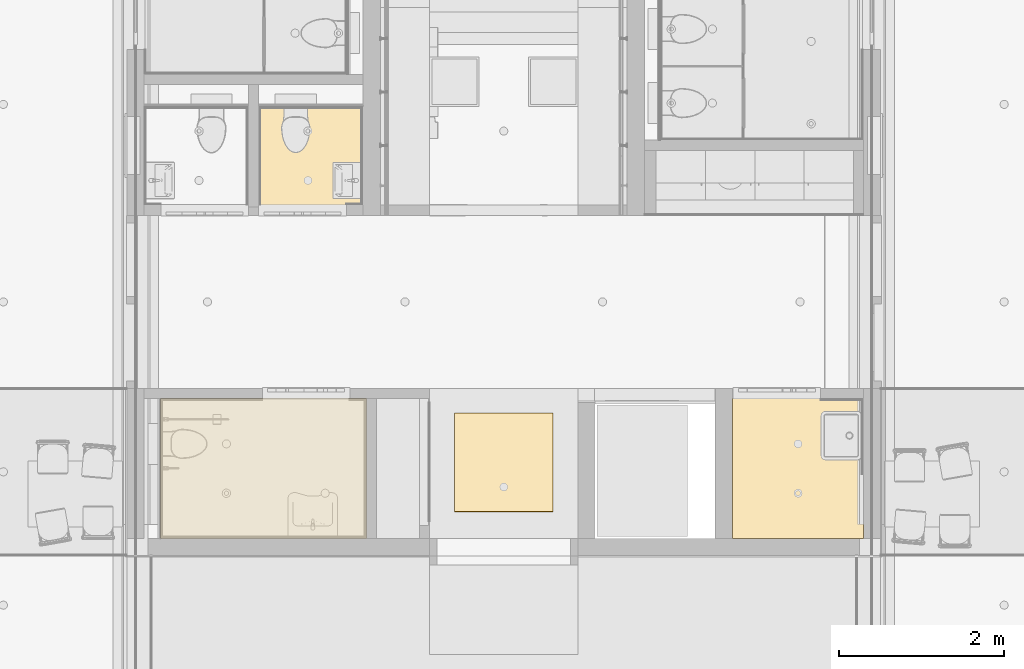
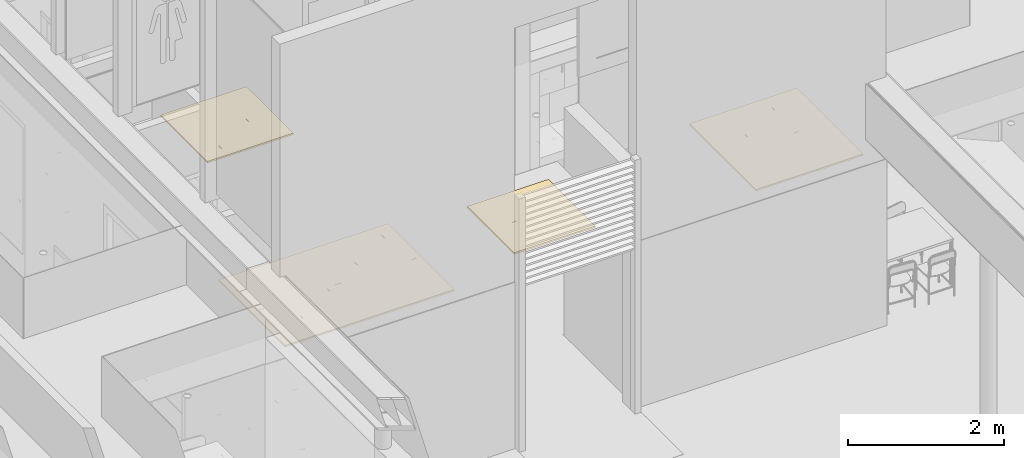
# One storey, part 152 of 347: 4 coverings.
"""IFC2X3 building model written with IfcOpenShell, lengths in millimetres."""

from ifc_helpers import new_model, entity, si_unit, converted_unit, derived_unit, money_unit, direction, frame, origin_with_axes, place, context, subcontext, project, spatial, faceted_brep, source, transform, mapped, type_object, type_shapes, element, save


model = new_model("IFC2X3")

# Units and contexts
model_context = context("Model", 3, precision=0.01, world=origin_with_axes(), true_north=direction((0.0, 1.0)))
plan_context = context("Plan", 3, precision=0.01, world=origin_with_axes(), true_north=direction((0.0, 1.0)))
body_context = subcontext(model_context, "Body", "Model", "MODEL_VIEW")
ifc_project = project(units=[si_unit("LENGTHUNIT", "METRE", prefix="MILLI"), si_unit("AREAUNIT", "SQUARE_METRE"), si_unit("VOLUMEUNIT", "CUBIC_METRE"), converted_unit("PLANEANGLEUNIT", "DEGREE", entity("IfcPlaneAngleMeasure", 0.0174532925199), si_unit("PLANEANGLEUNIT", "RADIAN"), dimensions=[0, 0, 0, 0, 0, 0, 0]), money_unit("EUR"), converted_unit("TIMEUNIT", "Year", entity("IfcTimeMeasure", 31556926.0), si_unit("TIMEUNIT", "SECOND"), dimensions=[0, 0, 1, 0, 0, 0, 0]), si_unit("MASSUNIT", "GRAM", prefix="KILO"), si_unit("THERMODYNAMICTEMPERATUREUNIT", "DEGREE_CELSIUS"), si_unit("LUMINOUSINTENSITYUNIT", "LUMEN"), si_unit("ENERGYUNIT", "JOULE", prefix="MEGA"), derived_unit("THERMALCONDUCTANCEUNIT", [(si_unit("POWERUNIT", "WATT"), 1), (si_unit("LENGTHUNIT", "METRE"), -1), (si_unit("THERMODYNAMICTEMPERATUREUNIT", "KELVIN"), -1)]), derived_unit("SPECIFICHEATCAPACITYUNIT", [(si_unit("ENERGYUNIT", "JOULE"), 1), (si_unit("MASSUNIT", "GRAM", prefix="KILO"), -1), (si_unit("THERMODYNAMICTEMPERATUREUNIT", "KELVIN"), -1)]), derived_unit("MASSDENSITYUNIT", [(si_unit("MASSUNIT", "GRAM", prefix="KILO"), 1), (si_unit("VOLUMEUNIT", "CUBIC_METRE"), -1)])], contexts=[model_context, plan_context])

# Site, building, storey
site_placement = place(None, origin_with_axes())
site = spatial("IfcSite", under=ifc_project, at=site_placement, Name="Site", CompositionType="ELEMENT")
building_placement = place(site_placement, origin_with_axes())
building = spatial("IfcBuilding", under=site, at=building_placement, Name="Naam gebouw", CompositionType="ELEMENT")
storey_placement = place(building_placement, origin_with_axes())
storey = spatial("IfcBuildingStorey", under=building, at=storey_placement, Name="begane grond", CompositionType="ELEMENT", Elevation=0.0)

# Coverings
covering_type = type_object("IfcCoveringType", Name="Ceiling Editor INT_v2.01", PredefinedType="CEILING")
shared_shape_1 = source(origin_with_axes(), body_context, "Body", "Brep", [
    faceted_brep([(0.0, 0.0, 20.0), (499.900017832, 0.0, 20.0), (499.900017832, 849.9, 20.0), (0.0, 849.9, 20.0), (0.0, 425.0, 20.0), (0.0, 0.0, 0.0), (499.900017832, 0.0, 0.0), (499.900017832, 849.9, 0.0), (0.0, 849.9, 0.0), (0.0, 425.0, 0.0)], [[[0, 1, 2, 3, 4]], [[1, 0, 5, 6]], [[1, 6, 7, 2]], [[8, 3, 2, 7]], [[3, 8, 9, 4]], [[0, 4, 9, 5]], [[9, 8, 7, 6, 5]]]),
    faceted_brep([(499.900017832, 1700.0, 0.0), (499.900017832, 1700.0, 20.0), (499.900017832, 850.1, 20.0), (499.900017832, 850.1, 0.0), (0.0, 1700.0, 0.0), (0.0, 1700.0, 20.0), (0.0, 1275.0, 20.0), (0.0, 850.1, 20.0), (0.0, 850.1, 0.0), (0.0, 1275.0, 0.0)], [[[0, 1, 2, 3]], [[1, 0, 4, 5]], [[6, 7, 2, 1, 5]], [[7, 8, 3, 2]], [[4, 0, 3, 8, 9]], [[6, 5, 4, 9]], [[7, 6, 9, 8]]]),
    faceted_brep([(625.0, 0.0, 20.0), (1099.90001783, 0.0, 20.0), (1099.90001783, 849.9, 20.0), (500.100017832, 849.9, 20.0), (500.100017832, 0.0, 20.0), (625.0, 0.0, 0.0), (1099.90001783, 0.0, 0.0), (1099.90001783, 849.9, 0.0), (500.100017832, 849.9, 0.0), (500.100017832, 0.0, 0.0)], [[[0, 1, 2, 3, 4]], [[1, 0, 5, 6]], [[1, 6, 7, 2]], [[2, 7, 8, 3]], [[9, 4, 3, 8]], [[0, 4, 9, 5]], [[5, 9, 8, 7, 6]]]),
    faceted_brep([(1099.90001783, 1700.0, 0.0), (1099.90001783, 1700.0, 20.0), (1099.90001783, 850.1, 20.0), (1099.90001783, 850.1, 0.0), (625.0, 1700.0, 0.0), (625.0, 1700.0, 20.0), (500.100017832, 1700.0, 20.0), (500.100017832, 850.1, 20.0), (500.100017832, 850.1, 0.0), (500.100017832, 1700.0, 0.0)], [[[0, 1, 2, 3]], [[1, 0, 4, 5]], [[5, 6, 7, 2, 1]], [[7, 8, 3, 2]], [[4, 0, 3, 8, 9]], [[6, 5, 4, 9]], [[6, 9, 8, 7]]]),
    faceted_brep([(1250.0, 0.0, 20.0), (1699.90001783, 0.0, 20.0), (1699.90001783, 849.9, 20.0), (1100.10001783, 849.9, 20.0), (1100.10001783, 0.0, 20.0), (1250.0, 0.0, 0.0), (1699.90001783, 0.0, 0.0), (1699.90001783, 849.9, 0.0), (1100.10001783, 849.9, 0.0), (1100.10001783, 0.0, 0.0)], [[[0, 1, 2, 3, 4]], [[1, 0, 5, 6]], [[1, 6, 7, 2]], [[2, 7, 8, 3]], [[9, 4, 3, 8]], [[0, 4, 9, 5]], [[5, 9, 8, 7, 6]]]),
    faceted_brep([(1699.90001783, 1700.0, 0.0), (1699.90001783, 1700.0, 20.0), (1699.90001783, 850.1, 20.0), (1699.90001783, 850.1, 0.0), (1250.0, 1700.0, 0.0), (1250.0, 1700.0, 20.0), (1100.10001783, 1700.0, 20.0), (1100.10001783, 850.1, 20.0), (1100.10001783, 850.1, 0.0), (1100.10001783, 1700.0, 0.0)], [[[0, 1, 2, 3]], [[1, 0, 4, 5]], [[5, 6, 7, 2, 1]], [[7, 8, 3, 2]], [[4, 0, 3, 8, 9]], [[6, 5, 4, 9]], [[6, 9, 8, 7]]]),
    faceted_brep([(1875.0, 0.0, 20.0), (2299.90001783, 0.0, 20.0), (2299.90001783, 849.9, 20.0), (1700.10001783, 849.9, 20.0), (1700.10001783, 0.0, 20.0), (1875.0, 0.0, 0.0), (2299.90001783, 0.0, 0.0), (2299.90001783, 849.9, 0.0), (1700.10001783, 849.9, 0.0), (1700.10001783, 0.0, 0.0)], [[[0, 1, 2, 3, 4]], [[1, 0, 5, 6]], [[1, 6, 7, 2]], [[2, 7, 8, 3]], [[9, 4, 3, 8]], [[0, 4, 9, 5]], [[5, 9, 8, 7, 6]]]),
    faceted_brep([(2299.90001783, 1700.0, 0.0), (2299.90001783, 1700.0, 20.0), (2299.90001783, 850.1, 20.0), (2299.90001783, 850.1, 0.0), (1875.0, 1700.0, 0.0), (1875.0, 1700.0, 20.0), (1700.10001783, 1700.0, 20.0), (1700.10001783, 850.1, 20.0), (1700.10001783, 850.1, 0.0), (1700.10001783, 1700.0, 0.0)], [[[0, 1, 2, 3]], [[1, 0, 4, 5]], [[5, 6, 7, 2, 1]], [[7, 8, 3, 2]], [[4, 0, 3, 8, 9]], [[6, 5, 4, 9]], [[6, 9, 8, 7]]]),
    faceted_brep([(2500.0, 425.0, 20.0), (2500.0, 849.9, 20.0), (2300.10001783, 849.9, 20.0), (2300.10001783, 0.0, 20.0), (2500.0, 0.0, 20.0), (2500.0, 425.0, 0.0), (2500.0, 849.9, 0.0), (2300.10001783, 849.9, 0.0), (2300.10001783, 0.0, 0.0), (2500.0, 0.0, 0.0)], [[[0, 1, 2, 3, 4]], [[1, 0, 5, 6]], [[1, 6, 7, 2]], [[8, 3, 2, 7]], [[4, 3, 8, 9]], [[0, 4, 9, 5]], [[9, 8, 7, 6, 5]]]),
    faceted_brep([(2500.0, 1275.0, 20.0), (2500.0, 1700.0, 20.0), (2300.10001783, 1700.0, 20.0), (2300.10001783, 850.1, 20.0), (2500.0, 850.1, 20.0), (2500.0, 1275.0, 0.0), (2500.0, 1700.0, 0.0), (2300.10001783, 1700.0, 0.0), (2300.10001783, 850.1, 0.0), (2500.0, 850.1, 0.0)], [[[0, 1, 2, 3, 4]], [[1, 0, 5, 6]], [[2, 1, 6, 7]], [[2, 7, 8, 3]], [[9, 4, 3, 8]], [[0, 4, 9, 5]], [[5, 9, 8, 7, 6]]]),
    faceted_brep([(2500.0, 0.0, 0.0), (2500.0, 0.0, -5.0), (2500.0, 837.5, -5.0), (2500.0, 850.0, -5.0), (2500.0, 850.0, 0.0), (2500.0, 837.5, 0.0), (1112.50001783, 0.0, -5.0), (1687.50001783, 0.0, -5.0), (1712.50001783, 0.0, -5.0), (2287.50001783, 0.0, -5.0), (2312.50001783, 0.0, -5.0), (2312.50001783, 0.0, 0.0), (2287.50001783, 0.0, 0.0), (1712.50001783, 0.0, 0.0), (1687.50001783, 0.0, 0.0), (1112.50001783, 0.0, 0.0), (1087.50001783, 0.0, 0.0), (512.500017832, 0.0, 0.0), (487.500017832, 0.0, 0.0), (0.0, 0.0, 0.0), (0.0, 0.0, -5.0), (487.500017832, 0.0, -5.0), (512.500017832, 0.0, -5.0), (1087.50001783, 0.0, -5.0), (0.0, 837.5, -5.0), (0.0, 850.0, -5.0), (0.0, 862.5, -5.0), (0.0, 1700.0, -5.0), (487.500017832, 1700.0, -5.0), (512.500017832, 1700.0, -5.0), (1087.50001783, 1700.0, -5.0), (1112.50001783, 1700.0, -5.0), (1687.50001783, 1700.0, -5.0), (1712.50001783, 1700.0, -5.0), (2287.50001783, 1700.0, -5.0), (2312.50001783, 1700.0, -5.0), (2500.0, 1700.0, -5.0), (2500.0, 862.5, -5.0), (25.0, 837.5, -5.0), (25.0, 25.0, -5.0), (487.500017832, 25.0, -5.0), (487.500017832, 837.5, -5.0), (487.500017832, 1675.0, -5.0), (25.0, 1675.0, -5.0), (25.0, 862.5, -5.0), (487.500017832, 862.5, -5.0), (1087.50001783, 1675.0, -5.0), (512.500017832, 1675.0, -5.0), (512.500017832, 862.5, -5.0), (1087.50001783, 862.5, -5.0), (1687.50001783, 1675.0, -5.0), (1112.50001783, 1675.0, -5.0), (1112.50001783, 862.5, -5.0), (1687.50001783, 862.5, -5.0), (2287.50001783, 1675.0, -5.0), (1712.50001783, 1675.0, -5.0), (1712.50001783, 862.5, -5.0), (2287.50001783, 862.5, -5.0), (2475.0, 1675.0, -5.0), (2312.50001783, 1675.0, -5.0), (2312.50001783, 862.5, -5.0), (2475.0, 862.5, -5.0), (2475.0, 25.0, -5.0), (2475.0, 837.5, -5.0), (2312.50001783, 837.5, -5.0), (2312.50001783, 25.0, -5.0), (2287.50001783, 25.0, -5.0), (2287.50001783, 837.5, -5.0), (1712.50001783, 837.5, -5.0), (1712.50001783, 25.0, -5.0), (1087.50001783, 25.0, -5.0), (1087.50001783, 837.5, -5.0), (512.500017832, 837.5, -5.0), (512.500017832, 25.0, -5.0), (1687.50001783, 25.0, -5.0), (1687.50001783, 837.5, -5.0), (1112.50001783, 837.5, -5.0), (1112.50001783, 25.0, -5.0), (2500.0, 1700.0, 0.0), (2500.0, 862.5, 0.0), (2312.50001783, 1700.0, 0.0), (2287.50001783, 1700.0, 0.0), (1712.50001783, 1700.0, 0.0), (1687.50001783, 1700.0, 0.0), (1112.50001783, 1700.0, 0.0), (1087.50001783, 1700.0, 0.0), (512.500017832, 1700.0, 0.0), (487.500017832, 1700.0, 0.0), (0.0, 1700.0, 0.0), (0.0, 862.5, 0.0), (0.0, 850.0, 0.0), (0.0, 837.5, 0.0), (25.0, 837.5, 0.0), (487.500017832, 837.5, 0.0), (487.500017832, 25.0, 0.0), (25.0, 25.0, 0.0), (487.500017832, 1675.0, 0.0), (487.500017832, 862.5, 0.0), (25.0, 862.5, 0.0), (25.0, 1675.0, 0.0), (1087.50001783, 1675.0, 0.0), (1087.50001783, 862.5, 0.0), (512.500017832, 862.5, 0.0), (512.500017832, 1675.0, 0.0), (1687.50001783, 1675.0, 0.0), (1687.50001783, 862.5, 0.0), (1112.50001783, 862.5, 0.0), (1112.50001783, 1675.0, 0.0), (2287.50001783, 1675.0, 0.0), (2287.50001783, 862.5, 0.0), (1712.50001783, 862.5, 0.0), (1712.50001783, 1675.0, 0.0), (2475.0, 862.5, 0.0), (2312.50001783, 862.5, 0.0), (2312.50001783, 1675.0, 0.0), (2475.0, 1675.0, 0.0), (2475.0, 25.0, 0.0), (2312.50001783, 25.0, 0.0), (2312.50001783, 837.5, 0.0), (2475.0, 837.5, 0.0), (1712.50001783, 25.0, 0.0), (1712.50001783, 837.5, 0.0), (2287.50001783, 837.5, 0.0), (2287.50001783, 25.0, 0.0), (1087.50001783, 25.0, 0.0), (512.500017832, 25.0, 0.0), (512.500017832, 837.5, 0.0), (1087.50001783, 837.5, 0.0), (1112.50001783, 25.0, 0.0), (1112.50001783, 837.5, 0.0), (1687.50001783, 837.5, 0.0), (1687.50001783, 25.0, 0.0)], [[[0, 1, 2, 3, 4, 5]], [[6, 7, 8, 9, 10, 1, 0, 11, 12, 13, 14, 15, 16, 17, 18, 19, 20, 21, 22, 23]], [[6, 23, 22, 21, 20, 24, 25, 26, 27, 28, 29, 30, 31, 32, 33, 34, 35, 36, 37, 3, 2, 1, 10, 9, 8, 7], [38, 39, 40, 41], [42, 43, 44, 45], [46, 47, 48, 49], [50, 51, 52, 53], [54, 55, 56, 57], [58, 59, 60, 61], [62, 63, 64, 65], [66, 67, 68, 69], [70, 71, 72, 73], [74, 75, 76, 77]], [[37, 36, 78, 79, 4, 3]], [[14, 13, 12, 11, 0, 5, 4, 79, 78, 80, 81, 82, 83, 84, 85, 86, 87, 88, 89, 90, 91, 19, 18, 17, 16, 15], [92, 93, 94, 95], [96, 97, 98, 99], [100, 101, 102, 103], [104, 105, 106, 107], [108, 109, 110, 111], [112, 113, 114, 115], [116, 117, 118, 119], [120, 121, 122, 123], [124, 125, 126, 127], [128, 129, 130, 131]], [[91, 90, 25, 24, 20, 19]], [[88, 27, 26, 25, 90, 89]], [[78, 36, 35, 34, 33, 32, 31, 30, 29, 28, 27, 88, 87, 86, 85, 84, 83, 82, 81, 80]], [[38, 92, 95, 39]], [[39, 95, 94, 40]], [[40, 94, 93, 41]], [[92, 38, 41, 93]], [[42, 96, 99, 43]], [[43, 99, 98, 44]], [[44, 98, 97, 45]], [[96, 42, 45, 97]], [[46, 100, 103, 47]], [[47, 103, 102, 48]], [[102, 101, 49, 48]], [[100, 46, 49, 101]], [[50, 104, 107, 51]], [[51, 107, 106, 52]], [[106, 105, 53, 52]], [[104, 50, 53, 105]], [[54, 108, 111, 55]], [[55, 111, 110, 56]], [[57, 56, 110, 109]], [[108, 54, 57, 109]], [[58, 115, 114, 59]], [[59, 114, 113, 60]], [[112, 61, 60, 113]], [[112, 115, 58, 61]], [[62, 116, 119, 63]], [[63, 119, 118, 64]], [[117, 65, 64, 118]], [[116, 62, 65, 117]], [[66, 123, 122, 67]], [[122, 121, 68, 67]], [[120, 69, 68, 121]], [[120, 123, 66, 69]], [[70, 124, 127, 71]], [[72, 71, 127, 126]], [[125, 73, 72, 126]], [[124, 70, 73, 125]], [[74, 131, 130, 75]], [[76, 75, 130, 129]], [[128, 77, 76, 129]], [[128, 131, 74, 77]]]),
])
covering_1_placement = place(storey_placement, frame((35905.0, 26150.0, 2600.0), z_axis=(0.0, 0.0, 1.0), x_axis=(1.0, 0.0, 0.0)))
element("IfcCovering", 1, at=covering_1_placement, inside=storey, type_object=covering_type, Name="45 Plafondafwerkingen_77 garderobe", PredefinedType="CEILING", context=body_context, shape_type="MappedRepresentation", body=[
    mapped(shared_shape_1, transform((0.0, 0.0, 0.0))),
])
shared_shape_2 = source(origin_with_axes(), body_context, "Body", "Brep", [
    faceted_brep([(397.0, 0.0, 20.0), (493.9, 0.0, 20.0), (493.9, 849.9, 20.0), (0.0, 849.9, 20.0), (0.0, 425.0, 20.0), (0.0, 0.0, 20.0), (397.0, 0.0, 0.0), (493.9, 0.0, 0.0), (493.9, 849.9, 0.0), (0.0, 849.9, 0.0), (0.0, 425.0, 0.0), (0.0, 0.0, 0.0)], [[[0, 1, 2, 3, 4, 5]], [[1, 0, 6, 7]], [[1, 7, 8, 2]], [[9, 3, 2, 8]], [[3, 9, 10, 4]], [[5, 4, 10, 11]], [[0, 5, 11, 6]], [[10, 9, 8, 7, 6, 11]]]),
    faceted_brep([(493.9, 1700.0, 0.0), (493.9, 1700.0, 20.0), (493.9, 850.1, 20.0), (493.9, 850.1, 0.0), (397.0, 1700.0, 0.0), (397.0, 1700.0, 20.0), (0.0, 1275.0, 20.0), (0.0, 850.1, 20.0), (0.0, 1700.0, 20.0), (0.0, 850.1, 0.0), (0.0, 1275.0, 0.0), (0.0, 1700.0, 0.0)], [[[0, 1, 2, 3]], [[1, 0, 4, 5]], [[6, 7, 2, 1, 5, 8]], [[7, 9, 3, 2]], [[4, 0, 3, 9, 10, 11]], [[8, 5, 4, 11]], [[7, 6, 10, 9]], [[6, 8, 11, 10]]]),
    faceted_brep([(794.0, 0.0, 20.0), (1093.9, 0.0, 20.0), (1093.9, 849.9, 20.0), (494.1, 849.9, 20.0), (494.1, 0.0, 20.0), (794.0, 0.0, 0.0), (1093.9, 0.0, 0.0), (1093.9, 849.9, 0.0), (494.1, 849.9, 0.0), (494.1, 0.0, 0.0)], [[[0, 1, 2, 3, 4]], [[1, 0, 5, 6]], [[1, 6, 7, 2]], [[2, 7, 8, 3]], [[9, 4, 3, 8]], [[0, 4, 9, 5]], [[5, 9, 8, 7, 6]]]),
    faceted_brep([(1093.9, 1700.0, 0.0), (1093.9, 1700.0, 20.0), (1093.9, 850.1, 20.0), (1093.9, 850.1, 0.0), (794.0, 1700.0, 0.0), (794.0, 1700.0, 20.0), (494.1, 1700.0, 20.0), (494.1, 850.1, 20.0), (494.1, 850.1, 0.0), (494.1, 1700.0, 0.0)], [[[0, 1, 2, 3]], [[1, 0, 4, 5]], [[5, 6, 7, 2, 1]], [[7, 8, 3, 2]], [[4, 0, 3, 8, 9]], [[6, 5, 4, 9]], [[6, 9, 8, 7]]]),
    faceted_brep([(1588.0, 425.0, 20.0), (1588.0, 849.9, 20.0), (1094.1, 849.9, 20.0), (1094.1, 0.0, 20.0), (1191.0, 0.0, 20.0), (1588.0, 0.0, 20.0), (1588.0, 425.0, 0.0), (1588.0, 849.9, 0.0), (1094.1, 849.9, 0.0), (1094.1, 0.0, 0.0), (1191.0, 0.0, 0.0), (1588.0, 0.0, 0.0)], [[[0, 1, 2, 3, 4, 5]], [[1, 0, 6, 7]], [[1, 7, 8, 2]], [[9, 3, 2, 8]], [[4, 3, 9, 10]], [[5, 4, 10, 11]], [[0, 5, 11, 6]], [[10, 9, 8, 7, 6, 11]]]),
    faceted_brep([(1588.0, 1275.0, 20.0), (1588.0, 1700.0, 20.0), (1191.0, 1700.0, 20.0), (1094.1, 1700.0, 20.0), (1094.1, 850.1, 20.0), (1588.0, 850.1, 20.0), (1588.0, 1275.0, 0.0), (1588.0, 1700.0, 0.0), (1191.0, 1700.0, 0.0), (1094.1, 1700.0, 0.0), (1094.1, 850.1, 0.0), (1588.0, 850.1, 0.0)], [[[0, 1, 2, 3, 4, 5]], [[1, 0, 6, 7]], [[2, 1, 7, 8]], [[3, 2, 8, 9]], [[3, 9, 10, 4]], [[11, 5, 4, 10]], [[0, 5, 11, 6]], [[6, 11, 10, 9, 8, 7]]]),
    faceted_brep([(1588.0, 0.0, 0.0), (1588.0, 0.0, -5.0), (1588.0, 837.5, -5.0), (1588.0, 850.0, -5.0), (1588.0, 850.0, 0.0), (1588.0, 837.5, 0.0), (506.5, 0.0, -5.0), (1081.5, 0.0, -5.0), (1106.5, 0.0, -5.0), (1106.5, 0.0, 0.0), (1081.5, 0.0, 0.0), (506.5, 0.0, 0.0), (481.5, 0.0, 0.0), (0.0, 0.0, 0.0), (0.0, 0.0, -5.0), (481.5, 0.0, -5.0), (0.0, 837.5, -5.0), (0.0, 850.0, -5.0), (0.0, 862.5, -5.0), (0.0, 1700.0, -5.0), (481.5, 1700.0, -5.0), (506.5, 1700.0, -5.0), (1081.5, 1700.0, -5.0), (1106.5, 1700.0, -5.0), (1588.0, 1700.0, -5.0), (1588.0, 862.5, -5.0), (481.5, 1675.0, -5.0), (25.0, 1675.0, -5.0), (25.0, 862.5, -5.0), (481.5, 862.5, -5.0), (1081.5, 1675.0, -5.0), (506.5, 1675.0, -5.0), (506.5, 862.5, -5.0), (1081.5, 862.5, -5.0), (1563.0, 1675.0, -5.0), (1106.5, 1675.0, -5.0), (1106.5, 862.5, -5.0), (1563.0, 862.5, -5.0), (1563.0, 25.0, -5.0), (1563.0, 837.5, -5.0), (1106.5, 837.5, -5.0), (1106.5, 25.0, -5.0), (481.5, 25.0, -5.0), (481.5, 837.5, -5.0), (25.0, 837.5, -5.0), (25.0, 25.0, -5.0), (1081.5, 25.0, -5.0), (1081.5, 837.5, -5.0), (506.5, 837.5, -5.0), (506.5, 25.0, -5.0), (1588.0, 1700.0, 0.0), (1588.0, 862.5, 0.0), (1106.5, 1700.0, 0.0), (1081.5, 1700.0, 0.0), (506.5, 1700.0, 0.0), (481.5, 1700.0, 0.0), (0.0, 1700.0, 0.0), (0.0, 862.5, 0.0), (0.0, 850.0, 0.0), (0.0, 837.5, 0.0), (481.5, 1675.0, 0.0), (481.5, 862.5, 0.0), (25.0, 862.5, 0.0), (25.0, 1675.0, 0.0), (1081.5, 1675.0, 0.0), (1081.5, 862.5, 0.0), (506.5, 862.5, 0.0), (506.5, 1675.0, 0.0), (1563.0, 862.5, 0.0), (1106.5, 862.5, 0.0), (1106.5, 1675.0, 0.0), (1563.0, 1675.0, 0.0), (1106.5, 25.0, 0.0), (1106.5, 837.5, 0.0), (1563.0, 837.5, 0.0), (1563.0, 25.0, 0.0), (481.5, 25.0, 0.0), (25.0, 25.0, 0.0), (25.0, 837.5, 0.0), (481.5, 837.5, 0.0), (506.5, 25.0, 0.0), (506.5, 837.5, 0.0), (1081.5, 837.5, 0.0), (1081.5, 25.0, 0.0)], [[[0, 1, 2, 3, 4, 5]], [[6, 7, 8, 1, 0, 9, 10, 11, 12, 13, 14, 15]], [[6, 15, 14, 16, 17, 18, 19, 20, 21, 22, 23, 24, 25, 3, 2, 1, 8, 7], [26, 27, 28, 29], [30, 31, 32, 33], [34, 35, 36, 37], [38, 39, 40, 41], [42, 43, 44, 45], [46, 47, 48, 49]], [[25, 24, 50, 51, 4, 3]], [[10, 9, 0, 5, 4, 51, 50, 52, 53, 54, 55, 56, 57, 58, 59, 13, 12, 11], [60, 61, 62, 63], [64, 65, 66, 67], [68, 69, 70, 71], [72, 73, 74, 75], [76, 77, 78, 79], [80, 81, 82, 83]], [[13, 59, 58, 17, 16, 14]], [[56, 19, 18, 17, 58, 57]], [[50, 24, 23, 22, 21, 20, 19, 56, 55, 54, 53, 52]], [[26, 60, 63, 27]], [[27, 63, 62, 28]], [[28, 62, 61, 29]], [[60, 26, 29, 61]], [[30, 64, 67, 31]], [[31, 67, 66, 32]], [[66, 65, 33, 32]], [[64, 30, 33, 65]], [[34, 71, 70, 35]], [[35, 70, 69, 36]], [[68, 37, 36, 69]], [[68, 71, 34, 37]], [[38, 75, 74, 39]], [[39, 74, 73, 40]], [[72, 41, 40, 73]], [[72, 75, 38, 41]], [[42, 76, 79, 43]], [[78, 44, 43, 79]], [[44, 78, 77, 45]], [[76, 42, 45, 77]], [[46, 83, 82, 47]], [[48, 47, 82, 81]], [[80, 49, 48, 81]], [[80, 83, 46, 49]]]),
])
covering_2_placement = place(storey_placement, frame((42857.0, 26150.0, 2600.0), z_axis=(0.0, 0.0, 1.0), x_axis=(1.0, 0.0, 0.0)))
element("IfcCovering", 2, at=covering_2_placement, inside=storey, type_object=covering_type, Name="45 Plafondafwerkingen_77 garderobe", PredefinedType="CEILING", context=body_context, shape_type="MappedRepresentation", body=[
    mapped(shared_shape_2, transform((0.0, 0.0, 0.0))),
])
shared_shape_3 = source(origin_with_axes(), body_context, "Body", "Brep", [
    faceted_brep([(0.0, 1199.9, 0.0), (0.0, 1199.9, 20.0), (299.9, 1199.9, 20.0), (299.9, 1199.9, 0.0), (0.0, 900.0, 0.0), (0.0, 900.0, 20.0), (0.0, 300.0, 20.0), (0.0, 0.100000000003, 20.0), (299.9, 0.100000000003, 20.0), (0.0, 600.0, 20.0), (299.9, 0.100000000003, 0.0), (0.0, 0.100000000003, 0.0), (0.0, 300.0, 0.0), (0.0, 600.0, 0.0)], [[[0, 1, 2, 3]], [[1, 0, 4, 5]], [[6, 7, 8, 2, 1, 5, 9]], [[8, 10, 3, 2]], [[4, 0, 3, 10, 11, 12, 13]], [[9, 5, 4, 13]], [[7, 6, 12, 11]], [[7, 11, 10, 8]], [[6, 9, 13, 12]]]),
    faceted_brep([(899.9, 0.100000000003, 20.0), (899.9, 0.100000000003, 0.0), (899.9, 1199.9, 0.0), (899.9, 1199.9, 20.0), (300.1, 0.100000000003, 20.0), (300.1, 0.100000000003, 0.0), (300.1, 1199.9, 0.0), (300.1, 1199.9, 20.0)], [[[0, 1, 2, 3]], [[4, 5, 1, 0]], [[2, 1, 5, 6]], [[3, 2, 6, 7]], [[4, 0, 3, 7]], [[7, 6, 5, 4]]]),
    faceted_brep([(1267.5, 900.0, 20.0), (1267.5, 1199.9, 20.0), (900.1, 1199.9, 20.0), (900.1, 0.100000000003, 20.0), (1267.5, 0.100000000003, 20.0), (1267.5, 300.0, 20.0), (1267.5, 600.0, 20.0), (1267.5, 900.0, 0.0), (1267.5, 1199.9, 0.0), (900.1, 1199.9, 0.0), (900.1, 0.100000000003, 0.0), (1267.5, 0.100000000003, 0.0), (1267.5, 300.0, 0.0), (1267.5, 600.0, 0.0)], [[[0, 1, 2, 3, 4, 5, 6]], [[1, 0, 7, 8]], [[1, 8, 9, 2]], [[2, 9, 10, 3]], [[11, 4, 3, 10]], [[5, 4, 11, 12]], [[6, 5, 12, 13]], [[0, 6, 13, 7]], [[12, 11, 10, 9, 8, 7, 13]]]),
    faceted_brep([(1267.5, 12.5, -5.0), (1267.5, 0.0, -5.0), (950.625, 0.0, -5.0), (633.75, 0.0, -5.0), (316.875, 0.0, -5.0), (0.0, 0.0, -5.0), (0.0, 12.5, -5.0), (0.0, 1187.5, -5.0), (0.0, 1200.0, -5.0), (316.875, 1200.0, -5.0), (633.75, 1200.0, -5.0), (950.625, 1200.0, -5.0), (1267.5, 1200.0, -5.0), (1267.5, 1187.5, -5.0), (887.5, 25.0, -5.0), (887.5, 1175.0, -5.0), (312.5, 1175.0, -5.0), (312.5, 25.0, -5.0), (25.0, 1175.0, -5.0), (25.0, 25.0, -5.0), (287.5, 25.0, -5.0), (287.5, 1175.0, -5.0), (1242.5, 25.0, -5.0), (1242.5, 1175.0, -5.0), (912.5, 1175.0, -5.0), (912.5, 25.0, -5.0), (1267.5, 1200.0, 0.0), (1267.5, 1187.5, 0.0), (1267.5, 12.5, 0.0), (1267.5, 0.0, 0.0), (950.625, 0.0, 0.0), (633.75, 0.0, 0.0), (316.875, 0.0, 0.0), (0.0, 0.0, 0.0), (0.0, 1187.5, 0.0), (0.0, 1200.0, 0.0), (0.0, 12.5, 0.0), (316.875, 1200.0, 0.0), (633.75, 1200.0, 0.0), (950.625, 1200.0, 0.0), (887.5, 25.0, 0.0), (887.5, 1175.0, 0.0), (312.5, 1175.0, 0.0), (312.5, 25.0, 0.0), (25.0, 1175.0, 0.0), (25.0, 25.0, 0.0), (287.5, 25.0, 0.0), (287.5, 1175.0, 0.0), (1242.5, 25.0, 0.0), (1242.5, 1175.0, 0.0), (912.5, 1175.0, 0.0), (912.5, 25.0, 0.0)], [[[0, 1, 2, 3, 4, 5, 6, 7, 8, 9, 10, 11, 12, 13], [14, 15, 16, 17], [18, 19, 20, 21], [22, 23, 24, 25]], [[0, 13, 12, 26, 27, 28, 29, 1]], [[2, 1, 29, 30]], [[2, 30, 31, 3]], [[4, 3, 31, 32]], [[4, 32, 33, 5]], [[34, 35, 8, 7, 6, 5, 33, 36]], [[9, 8, 35, 37]], [[10, 9, 37, 38]], [[11, 10, 38, 39]], [[12, 11, 39, 26]], [[14, 40, 41, 15]], [[15, 41, 42, 16]], [[16, 42, 43, 17]], [[43, 40, 14, 17]], [[18, 44, 45, 19]], [[19, 45, 46, 20]], [[47, 21, 20, 46]], [[21, 47, 44, 18]], [[22, 48, 49, 23]], [[23, 49, 50, 24]], [[51, 25, 24, 50]], [[51, 48, 22, 25]], [[27, 26, 39, 38, 37, 35, 34, 36, 33, 32, 31, 30, 29, 28], [43, 42, 41, 40], [47, 46, 45, 44], [51, 50, 49, 48]]]),
])
covering_3_placement = place(storey_placement, frame((37097.5, 30199.9999277, 2600.0), z_axis=(0.0, 0.0, 1.0), x_axis=(1.0, 0.0, 0.0)))
element("IfcCovering", 3, at=covering_3_placement, inside=storey, type_object=covering_type, Name="45 Plafondafwerkingen_77 garderobe", PredefinedType="CEILING", context=body_context, shape_type="MappedRepresentation", body=[
    mapped(shared_shape_3, transform((0.0, 0.0, 0.0))),
])
shared_shape_4 = source(origin_with_axes(), body_context, "Body", "Brep", [
    faceted_brep([(599.9, 0.1, 20.0), (599.9, 0.1, 0.0), (599.9, 1199.9, 0.0), (599.9, 1199.9, 20.0), (0.1, 0.1, 20.0), (0.1, 0.1, 0.0), (0.1, 1199.9, 0.0), (0.1, 1199.9, 20.0)], [[[0, 1, 2, 3]], [[4, 5, 1, 0]], [[2, 1, 5, 6]], [[3, 2, 6, 7]], [[4, 0, 3, 7]], [[7, 6, 5, 4]]]),
    faceted_brep([(1199.9, 0.1, 20.0), (1199.9, 0.1, 0.0), (1199.9, 1199.9, 0.0), (1199.9, 1199.9, 20.0), (600.1, 0.1, 20.0), (600.1, 0.1, 0.0), (600.1, 1199.9, 0.0), (600.1, 1199.9, 20.0)], [[[0, 1, 2, 3]], [[4, 5, 1, 0]], [[2, 1, 5, 6]], [[3, 2, 6, 7]], [[4, 0, 3, 7]], [[7, 6, 5, 4]]]),
    faceted_brep([(587.5, 25.0, -5.0), (587.5, 25.0, 0.0), (587.5, 1175.0, 0.0), (587.5, 1175.0, -5.0), (25.0, 25.0, -5.0), (25.0, 25.0, 0.0), (900.0, 0.0, 0.0), (1200.0, 0.0, 0.0), (1200.0, 300.0, 0.0), (1200.0, 600.0, 0.0), (1200.0, 900.0, 0.0), (1200.0, 1200.0, 0.0), (900.0, 1200.0, 0.0), (600.0, 1200.0, 0.0), (300.0, 1200.0, 0.0), (0.0, 1200.0, 0.0), (0.0, 900.0, 0.0), (0.0, 600.0, 0.0), (0.0, 300.0, 0.0), (0.0, 0.0, 0.0), (300.0, 0.0, 0.0), (600.0, 0.0, 0.0), (25.0, 1175.0, 0.0), (612.5, 25.0, 0.0), (612.5, 1175.0, 0.0), (1175.0, 1175.0, 0.0), (1175.0, 25.0, 0.0), (25.0, 1175.0, -5.0), (1200.0, 0.0, -5.0), (900.0, 0.0, -5.0), (600.0, 0.0, -5.0), (300.0, 0.0, -5.0), (0.0, 0.0, -5.0), (0.0, 300.0, -5.0), (0.0, 600.0, -5.0), (0.0, 900.0, -5.0), (0.0, 1200.0, -5.0), (300.0, 1200.0, -5.0), (600.0, 1200.0, -5.0), (900.0, 1200.0, -5.0), (1200.0, 1200.0, -5.0), (1200.0, 900.0, -5.0), (1200.0, 600.0, -5.0), (1200.0, 300.0, -5.0), (1175.0, 25.0, -5.0), (1175.0, 1175.0, -5.0), (612.5, 1175.0, -5.0), (612.5, 25.0, -5.0)], [[[0, 1, 2, 3]], [[1, 0, 4, 5]], [[6, 7, 8, 9, 10, 11, 12, 13, 14, 15, 16, 17, 18, 19, 20, 21], [1, 5, 22, 2], [23, 24, 25, 26]], [[3, 2, 22, 27]], [[28, 29, 30, 31, 32, 33, 34, 35, 36, 37, 38, 39, 40, 41, 42, 43], [0, 3, 27, 4], [44, 45, 46, 47]], [[27, 22, 5, 4]], [[6, 29, 28, 7]], [[28, 43, 8, 7]], [[43, 42, 9, 8]], [[42, 41, 10, 9]], [[41, 40, 11, 10]], [[12, 11, 40, 39]], [[39, 38, 13, 12]], [[14, 13, 38, 37]], [[37, 36, 15, 14]], [[36, 35, 16, 15]], [[35, 34, 17, 16]], [[34, 33, 18, 17]], [[33, 32, 19, 18]], [[31, 20, 19, 32]], [[20, 31, 30, 21]], [[29, 6, 21, 30]], [[23, 47, 46, 24]], [[45, 25, 24, 46]], [[44, 26, 25, 45]], [[23, 26, 44, 47]]]),
])
type_shapes(covering_type, [shared_shape_1, shared_shape_2, shared_shape_3, shared_shape_4])
covering_4_placement = place(storey_placement, frame((40675.0, 26475.0, 2600.0), z_axis=(0.0, 0.0, 1.0), x_axis=(0.0, 1.0, 0.0)))
element("IfcCovering", 4, at=covering_4_placement, inside=storey, type_object=covering_type, Name="45 Plafondafwerkingen_77 garderobe", PredefinedType="CEILING", context=body_context, shape_type="MappedRepresentation", body=[
    mapped(shared_shape_4, transform((0.0, 0.0, 0.0))),
])

save(model, "model.ifc")
